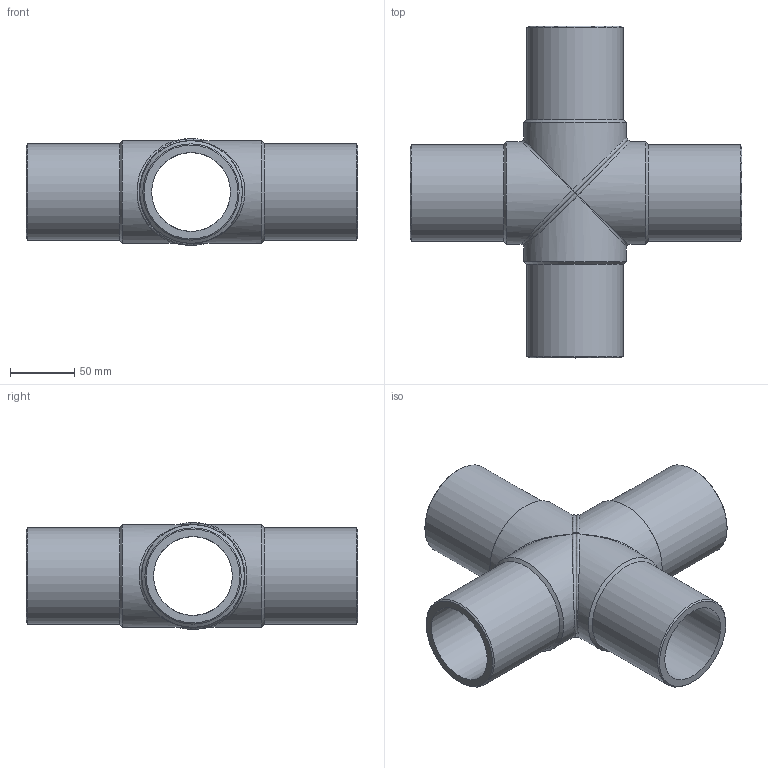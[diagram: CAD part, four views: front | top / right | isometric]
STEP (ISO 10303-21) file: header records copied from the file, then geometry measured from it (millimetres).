
FILE_DESCRIPTION(/* description */ ('Unknown'),/* implementation_level */ '2;1');
FILE_NAME(/* name */ 'CRP075C',/* time_stamp */ '2022-07-07T17:01:13+02:00',/* author */ ('Unknown'),/* organization */ ('Unknown'),/* preprocessor_version */ 'ST-DEVELOPER v18.102',/* originating_system */ 'Solid Edge',/* authorisation */ 'Unknown');
FILE_SCHEMA (('AUTOMOTIVE_DESIGN {1 0 10303 214 3 1 1}'));
Length unit declared in the file: millimetre
Products named in the file (3): CRP075C; CRP075C_mir
Assembly tree (2 placements, depth 2):
  CRP075C
    CRP075C
    CRP075C_mir
Bounding box: 258.5 x 258.5 x 82.99 mm (x, y, z)
Volume: 701645.4 mm3; surface area: 197114.4 mm2
Topology: 2 solids, 2 shells, 32 faces, 128 edges, 98 vertices
Faces by surface type: cylinder 12, cone 8, plane 6, bspline 6
Full cylindrical faces by diameter (mm): 61.4 x4, 75 x4, 80 x4
Entity records: 2969 total; most frequent: CARTESIAN_POINT 2051, ORIENTED_EDGE 196, DIRECTION 126, EDGE_CURVE 98, VERTEX_POINT 88, B_SPLINE_CURVE_WITH_KNOTS 64, AXIS2_PLACEMENT_3D 63, EDGE_LOOP 58
